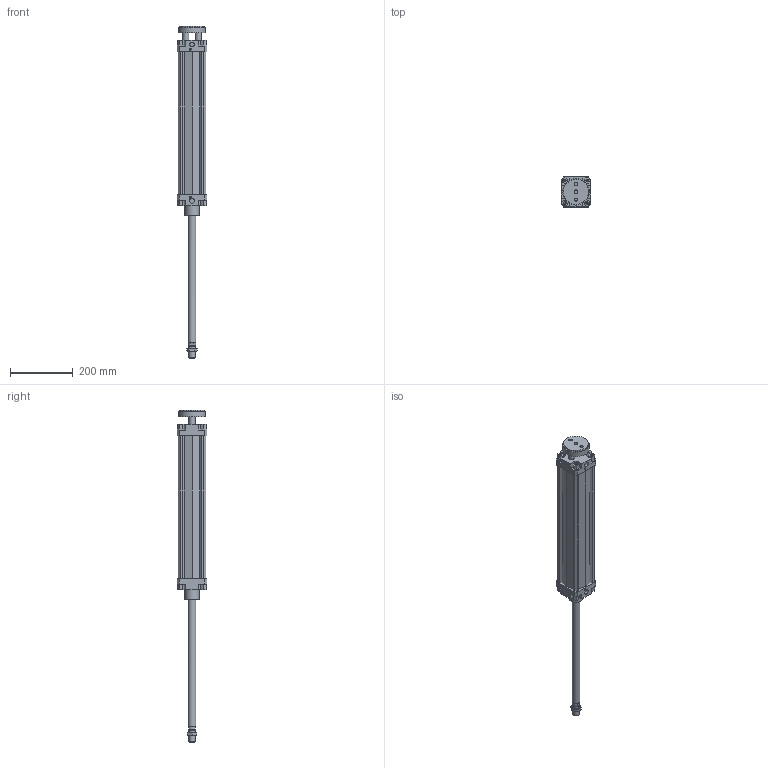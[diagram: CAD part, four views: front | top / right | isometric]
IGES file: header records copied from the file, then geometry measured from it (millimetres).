
Global section: file name: 132#_080_0400_02; native system: Autodesk Inventor 2014; preprocessor: unknown; author: A. Manieri; date: 20161006.162503; units: millimetre
Bounding box: 95 x 95 x 1060 mm (x, y, z)
Volume: 2357057.7 mm3; surface area: 506953.9 mm2
Topology: 3 solids, 3 shells, 220 faces, 589 edges, 397 vertices
Faces by surface type: bspline 220
